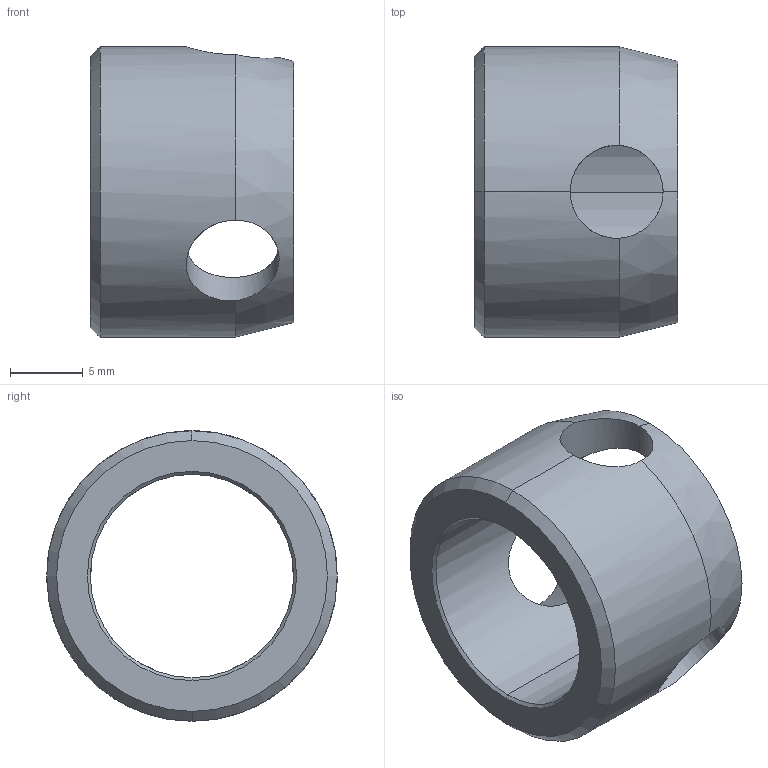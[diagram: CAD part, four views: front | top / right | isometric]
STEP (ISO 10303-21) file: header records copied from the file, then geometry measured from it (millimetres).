
FILE_DESCRIPTION (( 'STEP AP203' ), '1' );
FILE_NAME ('FSUK-SCRS-M16-14.STEP', '2021-08-05T13:06:48', ( '' ), ( '' ), 'SwSTEP 2.0', 'SolidWorks 2021', '' );
FILE_SCHEMA (( 'CONFIG_CONTROL_DESIGN' ));
Length unit declared in the file: millimetre
Products named in the file (1): FSUK-SCRS-M16-14
Bounding box: 14 x 20 x 20 mm (x, y, z)
Volume: 1824.9 mm3; surface area: 1690.9 mm2
Topology: 1 solids, 1 shells, 20 faces, 55 edges, 33 vertices
Faces by surface type: cylinder 10, cone 8, plane 2
Entity records: 1082 total; most frequent: CARTESIAN_POINT 505, ORIENTED_EDGE 110, DIRECTION 97, EDGE_CURVE 55, AXIS2_PLACEMENT_3D 39, VERTEX_POINT 33, EDGE_LOOP 24, ADVANCED_FACE 20
